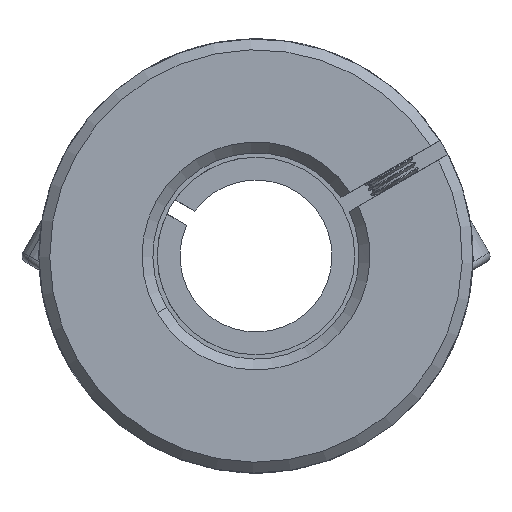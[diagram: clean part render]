
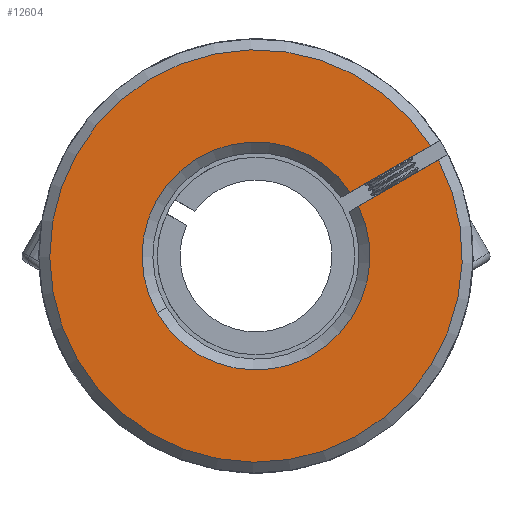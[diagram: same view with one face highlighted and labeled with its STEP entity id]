
A CAD part, front view. The second image highlights one B-rep face of the part: STEP entity #12604.
In plain terms, the highlighted planar face has unit normal (0, -1, 0).
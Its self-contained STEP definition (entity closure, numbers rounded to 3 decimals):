
#636 = CARTESIAN_POINT ( 'NONE',  ( -1.447, -31.239, 40. ) ) ;
#1858 = DIRECTION ( 'NONE',  ( 0.5, 0., -0.866 ) ) ;
#1967 = EDGE_CURVE ( 'NONE', #10693, #5934, #8121, .T. ) ;
#2002 = CARTESIAN_POINT ( 'NONE',  ( 15.367, -31.239, 48.848 ) ) ;
#2613 = PLANE ( 'NONE',  #4022 ) ;
#2827 = CIRCLE ( 'NONE', #8740, 10.5 ) ;
#3000 = DIRECTION ( 'NONE',  ( -0.866, 0., -0.5 ) ) ;
#3412 = AXIS2_PLACEMENT_3D ( 'NONE', #6093, #13661, #1858 ) ;
#3699 = DIRECTION ( 'NONE',  ( 0., 1., 0. ) ) ;
#3985 = CARTESIAN_POINT ( 'NONE',  ( 7.246, -31.239, 45.889 ) ) ;
#4022 = AXIS2_PLACEMENT_3D ( 'NONE', #8756, #3699, #13410 ) ;
#4476 = DIRECTION ( 'NONE',  ( 0.866, 0., 0.5 ) ) ;
#4541 = VERTEX_POINT ( 'NONE', #3985 ) ;
#4904 = DIRECTION ( 'NONE',  ( 0., 1., 0. ) ) ;
#4948 = CIRCLE ( 'NONE', #3412, 19. ) ;
#4990 = FACE_OUTER_BOUND ( 'NONE', #11379, .T. ) ;
#5934 = VERTEX_POINT ( 'NONE', #11425 ) ;
#6093 = CARTESIAN_POINT ( 'NONE',  ( -1.447, -31.239, 40. ) ) ;
#7027 = ORIENTED_EDGE ( 'NONE', *, *, #12448, .T. ) ;
#7060 = DIRECTION ( 'NONE',  ( 0.5, 0., -0.866 ) ) ;
#7219 = LINE ( 'NONE', #8367, #7728 ) ;
#7234 = VERTEX_POINT ( 'NONE', #2002 ) ;
#7692 = EDGE_CURVE ( 'NONE', #8919, #7234, #4948, .T. ) ;
#7728 = VECTOR ( 'NONE', #3000, 1000. ) ;
#8121 = CIRCLE ( 'NONE', #11666, 10.5 ) ;
#8249 = ORIENTED_EDGE ( 'NONE', *, *, #1967, .T. ) ;
#8367 = CARTESIAN_POINT ( 'NONE',  ( 6.378, -31.239, 45.387 ) ) ;
#8430 = CARTESIAN_POINT ( 'NONE',  ( -1.447, -31.239, 40. ) ) ;
#8740 = AXIS2_PLACEMENT_3D ( 'NONE', #636, #4904, #7060 ) ;
#8756 = CARTESIAN_POINT ( 'NONE',  ( 52.98, -31.239, 45.743 ) ) ;
#8919 = VERTEX_POINT ( 'NONE', #12390 ) ;
#9518 = ORIENTED_EDGE ( 'NONE', *, *, #10046, .F. ) ;
#9575 = LINE ( 'NONE', #10966, #9729 ) ;
#9729 = VECTOR ( 'NONE', #4476, 1000. ) ;
#10046 = EDGE_CURVE ( 'NONE', #8919, #4541, #7219, .T. ) ;
#10287 = ORIENTED_EDGE ( 'NONE', *, *, #7692, .T. ) ;
#10629 = DIRECTION ( 'NONE',  ( 0.5, 0., -0.866 ) ) ;
#10693 = VERTEX_POINT ( 'NONE', #11092 ) ;
#10724 = DIRECTION ( 'NONE',  ( 0., 1., 0. ) ) ;
#10966 = CARTESIAN_POINT ( 'NONE',  ( 7.128, -31.239, 44.088 ) ) ;
#11020 = ORIENTED_EDGE ( 'NONE', *, *, #13694, .F. ) ;
#11092 = CARTESIAN_POINT ( 'NONE',  ( 7.997, -31.239, 44.59 ) ) ;
#11379 = EDGE_LOOP ( 'NONE', ( #11020, #8249, #7027, #9518, #10287 ) ) ;
#11425 = CARTESIAN_POINT ( 'NONE',  ( -10.539, -31.239, 34.747 ) ) ;
#11666 = AXIS2_PLACEMENT_3D ( 'NONE', #8430, #10724, #10629 ) ;
#12390 = CARTESIAN_POINT ( 'NONE',  ( 14.616, -31.239, 50.147 ) ) ;
#12448 = EDGE_CURVE ( 'NONE', #5934, #4541, #2827, .T. ) ;
#12604 = ADVANCED_FACE ( 'NONE', ( #4990 ), #2613, .F. ) ;
#13410 = DIRECTION ( 'NONE',  ( 0.5, 0., -0.866 ) ) ;
#13661 = DIRECTION ( 'NONE',  ( 0., -1., 0. ) ) ;
#13694 = EDGE_CURVE ( 'NONE', #10693, #7234, #9575, .T. ) ;
